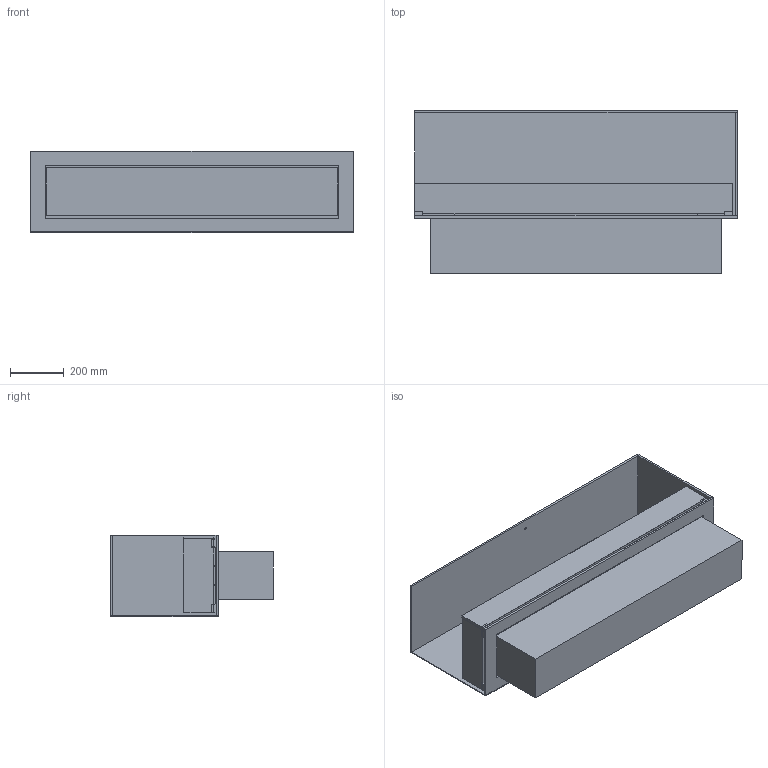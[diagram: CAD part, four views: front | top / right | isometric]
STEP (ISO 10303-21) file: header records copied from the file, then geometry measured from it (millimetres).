
FILE_DESCRIPTION (( 'STEP AP203' ), '1' );
FILE_NAME ('Montreal open to front and 1 side 1200 Hybrid Mist.STEP', '2024-03-22T10:13:01', ( '' ), ( '' ), 'SwSTEP 2.0', 'SolidWorks 2023', '' );
FILE_SCHEMA (( 'CONFIG_CONTROL_DESIGN' ));
Length unit declared in the file: millimetre
Products named in the file (10): Montreal open to front and 1 side 1200 Hybrid Mist; Part4^P&G -1120SI Montreal Single AUTOShowroom -look book; Part3^P&G -1120SI Montreal Single AUTOShowroom -look book; 8mm alu Side - P&G -1120SIShowroom -look book_Glass; 8mm alu Bund - P&G -1120SIShowroom -look book; Part2^P&G -1120SI Montreal Single AUTOShowroom -look book; Glas holder flad med sider 10mm; 3mm alu Bag - P&G -1120SIShowroom -look book; 8mm alu Top - P&G -1120SIShowroom -look book; Denver F6_uden glass
Assembly tree (12 placements, depth 2):
  Montreal open to front and 1 side 1200 Hybrid Mist
    8mm alu Top - P&G -1120SIShowroom -look book
    8mm alu Bund - P&G -1120SIShowroom -look book
    8mm alu Side - P&G -1120SIShowroom -look book_Glass
    3mm alu Bag - P&G -1120SIShowroom -look book
    Glas holder flad med sider 10mm  x5
    Part2^P&G -1120SI Montreal Single AUTOShowroom -look book
    Part4^P&G -1120SI Montreal Single AUTOShowroom -look book
    Denver F6_uden glass
  Part3^P&G -1120SI Montreal Single AUTOShowroom -look book
Bounding box: 1200 x 605 x 303 mm (x, y, z)
Volume: 50210714.1 mm3; surface area: 4170926.8 mm2
Topology: 16 solids, 16 shells, 209 faces, 469 edges, 298 vertices
Faces by surface type: plane 183, cylinder 26
Entity records: 5400 total; most frequent: CARTESIAN_POINT 739, DIRECTION 729, ORIENTED_EDGE 698, EDGE_CURVE 349, VECTOR 313, LINE 313, VERTEX_POINT 218, AXIS2_PLACEMENT_3D 208
